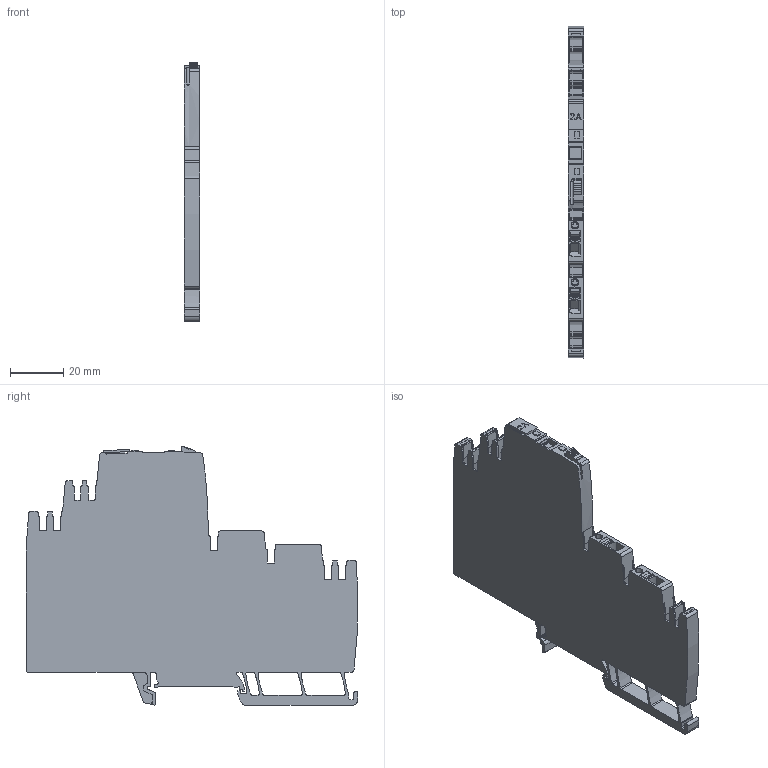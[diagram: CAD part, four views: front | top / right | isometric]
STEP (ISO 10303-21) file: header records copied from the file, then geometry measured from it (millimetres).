
FILE_DESCRIPTION(('CATIA V5R24 STEP','CAx-IF Rec.Pracs.--- Model Styling and Organization---1.2---2011-12-15'),'2;1');
FILE_NAME('\\SRVDE107\Germany\WMC\1_WMC_Input\Step_BU_PA\2080480000.stp','2017-09-05T06:55:22+00:00',('Weidmueller Interface'),('WI'),'CATIA Version 5-6 Release 2014 SP4','CATIA V5 STEP AP214','none');
FILE_SCHEMA(('AUTOMOTIVE_DESIGN { 1 0 10303 214 1 1 1 1 }'));
Length unit declared in the file: millimetre
Products named in the file (1): 2080480000
Bounding box: 6 x 125.07 x 97.53 mm (x, y, z)
Volume: 46747.3 mm3; surface area: 24196.6 mm2
Topology: 11 solids, 11 shells, 1111 faces, 3281 edges, 2219 vertices
Faces by surface type: plane 617, cylinder 469, extrusion 23, bspline 2
Entity records: 37952 total; most frequent: CARTESIAN_POINT 7992, ORIENTED_EDGE 6562, DIRECTION 4979, EDGE_CURVE 3281, VERTEX_POINT 2219, VECTOR 2188, LINE 2165, AXIS2_PLACEMENT_3D 1867
